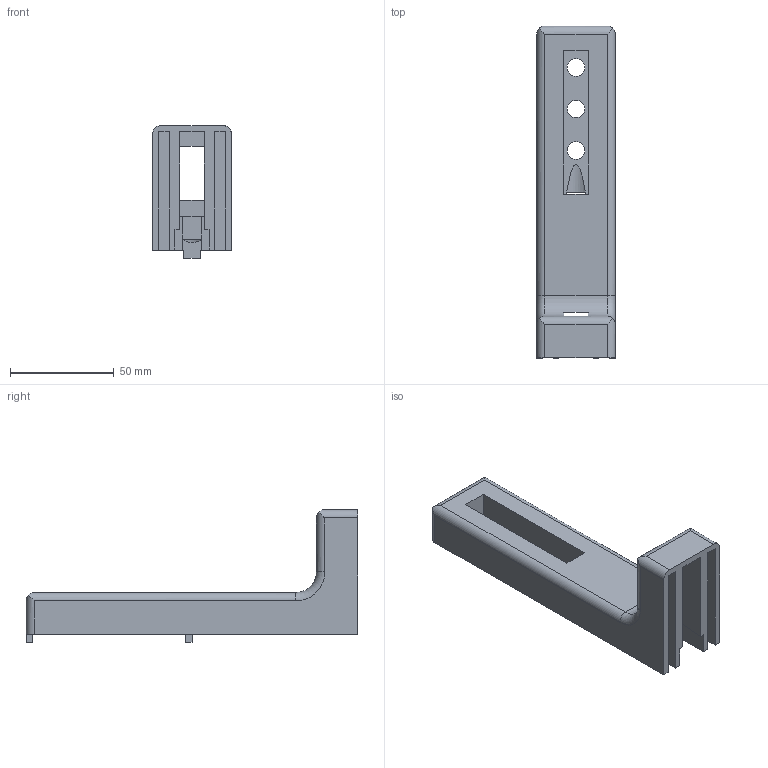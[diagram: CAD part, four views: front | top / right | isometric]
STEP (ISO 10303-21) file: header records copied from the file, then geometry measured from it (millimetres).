
FILE_DESCRIPTION((''),'2;1');
FILE_NAME('E:\catalogue and flyer\Profile catalogue 2015\Accessories JE info\Accessories-JE step file 31MAr16\JE-FB38x160-8.stp','2016-03-31T15:31:02',('h029'),(''),'Autodesk Inventor 11','Autodesk Inventor 11','');
FILE_SCHEMA(('AUTOMOTIVE_DESIGN { 1 0 10303 214 1 1 1 1 }'));
Length unit declared in the file: millimetre
Products named in the file (1): JE-FB38x160-8
Bounding box: 38 x 160 x 64 mm (x, y, z)
Volume: 74907.8 mm3; surface area: 43389.3 mm2
Topology: 1 solids, 1 shells, 75 faces, 218 edges, 144 vertices
Faces by surface type: plane 58, cylinder 15, torus 2
Full cylindrical faces by diameter (mm): 8.5 x3
Entity records: 2482 total; most frequent: CARTESIAN_POINT 435, ORIENTED_EDGE 430, DIRECTION 401, EDGE_CURVE 215, VECTOR 181, LINE 181, VERTEX_POINT 144, AXIS2_PLACEMENT_3D 110
